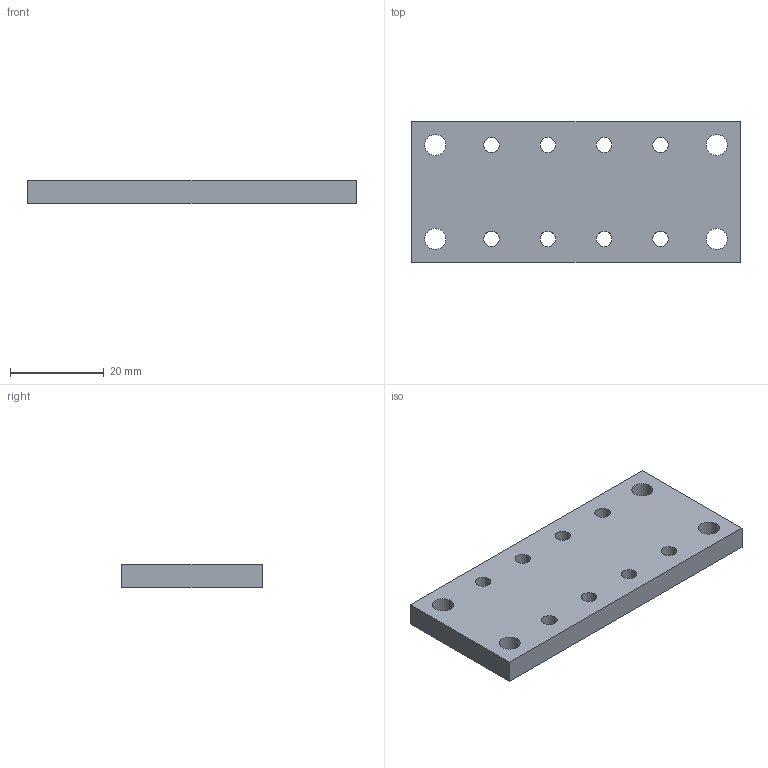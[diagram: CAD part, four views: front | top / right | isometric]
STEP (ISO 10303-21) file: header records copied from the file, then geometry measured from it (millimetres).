
FILE_DESCRIPTION(/* description */ ('STEP AP242 Edition 2','CAx-IF Rec.Pracs.---Representation and Presentation of Product Manufacturing Information (PMI)---4.0---2014-10-13','CAx-IF Rec.Pracs.---3D Tessellated Geometry---0.4---2014-09-14','2;1','CAx-IF Rec.Pracs.---User Defined Attributes---1.5---2016-08-15'),/* implementation_level */ '2;1');
FILE_NAME(/* name */ 'Tarok - Total Assemply - PDB',/* time_stamp */ '2026-05-23T09:34:08Z',/* author */ (''),/* organization */ (''),/* preprocessor_version */ 'ST-DEVELOPER v20',/* originating_system */ 'ONSHAPE BY PTC INC, 1.215',/* authorisation */ ' ');
FILE_SCHEMA (('AP242_MANAGED_MODEL_BASED_3D_ENGINEERING_MIM_LF { 1 0 10303 442 3 1 4 }'));
Length unit declared in the file: metre
Products named in the file (1): PDB
Bounding box: 70 x 30 x 5 mm (x, y, z)
Volume: 9839.8 mm3; surface area: 5633.4 mm2
Topology: 1 solids, 1 shells, 18 faces, 48 edges, 32 vertices
Faces by surface type: cylinder 12, plane 6
Full cylindrical faces by diameter (mm): 3.3 x8, 4.5 x4
Entity records: 586 total; most frequent: DIRECTION 98, CARTESIAN_POINT 87, ORIENTED_EDGE 72, EDGE_LOOP 54, FACE_BOUND 54, AXIS2_PLACEMENT_3D 43, EDGE_CURVE 36, VERTEX_POINT 32
